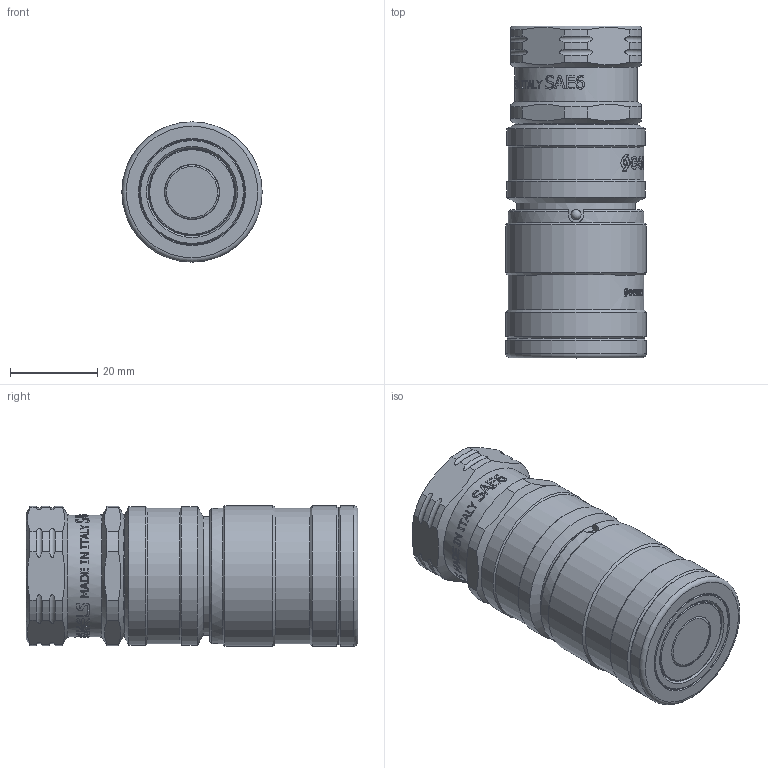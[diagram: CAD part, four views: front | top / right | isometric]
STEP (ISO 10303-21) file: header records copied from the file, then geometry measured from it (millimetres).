
FILE_DESCRIPTION(/* description */ (''),/* implementation_level */ '2;1');
FILE_NAME(/* name */ 'NC06S020000.stp',/* time_stamp */ '2024-11-22T14:50:03+01:00',/* author */ ('thomas.belotti'),/* organization */ (''),/* preprocessor_version */ 'ST-DEVELOPER v20',/* originating_system */ 'Autodesk Inventor 2024',/* authorisation */ '');
FILE_SCHEMA (('AUTOMOTIVE_DESIGN { 1 0 10303 214 3 1 1 }'));
Products named in the file (1): Parte3
Bounding box: 32.2 x 76.14 x 32.2 mm (x, y, z)
Volume: 55307.2 mm3; surface area: 11090 mm2
Topology: 1 solids, 3 shells, 1636 faces, 4654 edges, 3093 vertices
Faces by surface type: bspline 1059, plane 408, cylinder 129, cone 20, torus 16, sphere 4
Full cylindrical faces by diameter (mm): 2.3 x4, 12.7 x1, 12.9 x1, 13 x1, 19.8 x1, 24 x1, 24.15 x1, 27.112 x1, 27.3 x1, 27.5 x1, 28 x1, 31.1 x1, 31.2 x1, 31.8 x2, 32.2 x3
Entity records: 71016 total; most frequent: CARTESIAN_POINT 33865, ORIENTED_EDGE 9308, EDGE_CURVE 4654, DIRECTION 4101, VERTEX_POINT 3093, B_SPLINE_CURVE_WITH_KNOTS 2242, LINE 1815, VECTOR 1815
